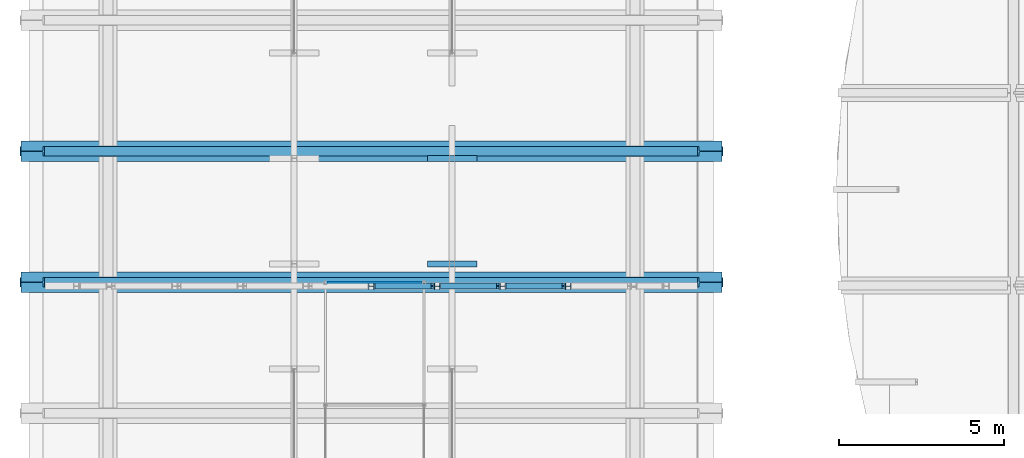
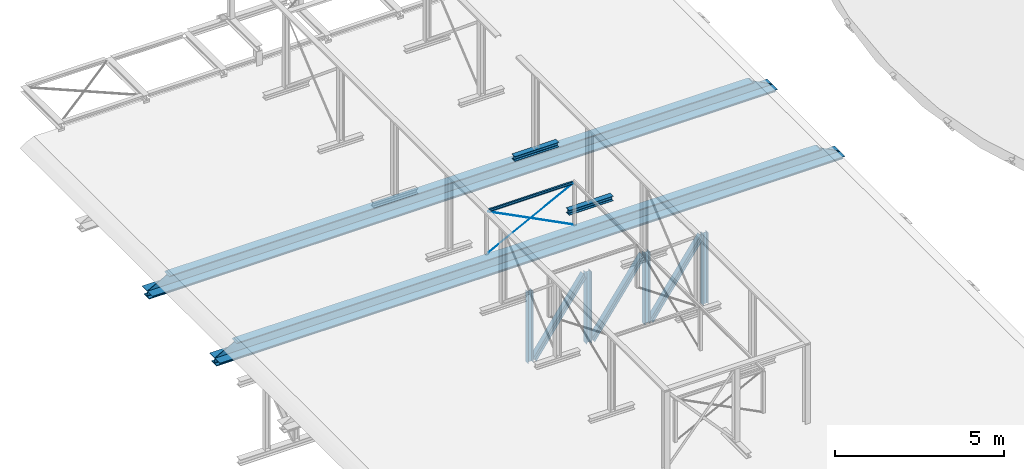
# One storey, part 18 of 50: 14 beams.
"""IFC2X3 building model written with IfcOpenShell, lengths in millimetres."""

from ifc_helpers import new_model, entity, si_unit, converted_unit, derived_unit, direction, frame, frame_2d, origin, place, context, subcontext, project, spatial, polyline, circle_curve, parameter, trimmed, segment, composite_curve, rectangle, circle, i_section, outline, extrude, clip, halfspace, bounded_halfspace, source, transform, mapped, material, material_list, type_object, type_shapes, element, save


model = new_model("IFC2X3")

# Units and contexts
model_context = context("Model", 3, precision=0.01, world=origin(), true_north=direction((6.12303176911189e-17, 1.0)))
body_context = subcontext(model_context, "Body", "Model", "MODEL_VIEW")
ifc_project = project(units=[si_unit("LENGTHUNIT", "METRE", prefix="MILLI"), si_unit("AREAUNIT", "SQUARE_METRE", prefix="MILLI"), si_unit("VOLUMEUNIT", "CUBIC_METRE"), converted_unit("PLANEANGLEUNIT", "DEGREE", entity("IfcRatioMeasure", 0.0174532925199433), si_unit("PLANEANGLEUNIT", "RADIAN"), dimensions=[0, 0, 0, 0, 0, 0, 0]), si_unit("MASSUNIT", "GRAM", prefix="KILO"), derived_unit("MASSDENSITYUNIT", [(si_unit("MASSUNIT", "GRAM", prefix="KILO"), 1), (si_unit("LENGTHUNIT", "METRE"), -3)]), derived_unit("MOMENTOFINERTIAUNIT", [(si_unit("LENGTHUNIT", "METRE"), 4)]), si_unit("TIMEUNIT", "SECOND"), si_unit("FREQUENCYUNIT", "HERTZ"), si_unit("THERMODYNAMICTEMPERATUREUNIT", "DEGREE_CELSIUS"), derived_unit("THERMALTRANSMITTANCEUNIT", [(si_unit("MASSUNIT", "GRAM", prefix="KILO"), 1), (si_unit("THERMODYNAMICTEMPERATUREUNIT", "KELVIN"), -1), (si_unit("TIMEUNIT", "SECOND"), -3)]), derived_unit("VOLUMETRICFLOWRATEUNIT", [(si_unit("LENGTHUNIT", "METRE"), 3), (si_unit("TIMEUNIT", "SECOND"), -1)]), si_unit("ELECTRICCURRENTUNIT", "AMPERE"), si_unit("ELECTRICVOLTAGEUNIT", "VOLT"), si_unit("POWERUNIT", "WATT"), si_unit("FORCEUNIT", "NEWTON", prefix="KILO"), si_unit("ILLUMINANCEUNIT", "LUX"), si_unit("LUMINOUSFLUXUNIT", "LUMEN"), si_unit("LUMINOUSINTENSITYUNIT", "CANDELA"), derived_unit("USERDEFINED", [(si_unit("MASSUNIT", "GRAM", prefix="KILO"), -1), (si_unit("LENGTHUNIT", "METRE"), -2), (si_unit("TIMEUNIT", "SECOND"), 3), (si_unit("LUMINOUSFLUXUNIT", "LUMEN"), 1)]), derived_unit("LINEARVELOCITYUNIT", [(si_unit("LENGTHUNIT", "METRE"), 1), (si_unit("TIMEUNIT", "SECOND"), -1)]), si_unit("PRESSUREUNIT", "PASCAL"), derived_unit("USERDEFINED", [(si_unit("LENGTHUNIT", "METRE"), -2), (si_unit("MASSUNIT", "GRAM", prefix="KILO"), 1), (si_unit("TIMEUNIT", "SECOND"), -2)]), derived_unit("LINEARFORCEUNIT", [(si_unit("MASSUNIT", "GRAM", prefix="KILO"), 1), (si_unit("LENGTHUNIT", "METRE"), 1), (si_unit("TIMEUNIT", "SECOND"), -2), (si_unit("LENGTHUNIT", "METRE"), -1)]), derived_unit("PLANARFORCEUNIT", [(si_unit("MASSUNIT", "GRAM", prefix="KILO"), 1), (si_unit("LENGTHUNIT", "METRE"), 1), (si_unit("TIMEUNIT", "SECOND"), -2), (si_unit("LENGTHUNIT", "METRE"), -2)])], contexts=[model_context])

# Site, building, storey
site_placement = place(None, origin())
site = spatial("IfcSite", under=ifc_project, at=site_placement, Name="Theater aan de Parade", CompositionType="ELEMENT")
building_placement = place(site_placement, origin())
building = spatial("IfcBuilding", under=site, at=building_placement, Name="Theater aan de Parade", CompositionType="ELEMENT")
storey_placement = place(building_placement, frame((0.0, 0.0, 15820.0)))
storey = spatial("IfcBuildingStorey", under=building, at=storey_placement, Name="04 vierde verdieping", CompositionType="ELEMENT", Elevation=15820.0)

# Beams
ifc_material_1 = material(Name="00_PBT_MAT_staal_S355")
beam_type_1 = type_object("IfcBeamType", Name="28_PBT_SF_staal_H-profiel:S355_HE180A", PredefinedType="NOTDEFINED")
beam_1_placement = place(storey_placement, frame((26103.8569884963, 29518.2922984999, -4340.0), z_axis=(1.0, 0.0, 0.0), x_axis=(0.0, 0.0, 1.0)))
element("IfcBeam", 1, at=beam_1_placement, inside=storey, type_object=beam_type_1, material=ifc_material_1, Name="28_PBT_SF_staal_H-profiel:S355_HE180A", ObjectType="28_PBT_SF_staal_H-profiel:S355_HE180A", context=body_context, shape_type="SweptSolid", body=[
    extrude(i_section(OverallWidth=179.999999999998, OverallDepth=171.0, WebThickness=6.00000000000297, FlangeThickness=9.49999999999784, FilletRadius=15.0000000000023, at=frame_2d((-2.16715534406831e-12, -2.16715534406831e-12), x_axis=(0.0, 1.0))), frame((122.7, 0.0, 0.0), z_axis=(1.0, 0.0, 0.0), x_axis=(0.0, 0.0, -1.0)), (0.0, 0.0, 1.0), 2574.60000000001),
])
beam_2_placement = place(storey_placement, frame((28095.8569884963, 29518.2922984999, -4340.0), z_axis=(1.0, 0.0, 0.0), x_axis=(0.0, 0.0, 1.0)))
element("IfcBeam", 2, at=beam_2_placement, inside=storey, type_object=beam_type_1, material=ifc_material_1, Name="28_PBT_SF_staal_H-profiel:S355_HE180A", ObjectType="28_PBT_SF_staal_H-profiel:S355_HE180A", context=body_context, shape_type="SweptSolid", body=[
    extrude(i_section(OverallWidth=179.999999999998, OverallDepth=171.0, WebThickness=6.00000000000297, FlangeThickness=9.49999999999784, FilletRadius=15.0000000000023, at=frame_2d((6.49436060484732e-12, -2.16715534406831e-12), x_axis=(0.0, 1.0))), frame((122.7, 0.0, 0.0), z_axis=(1.0, 0.0, 0.0), x_axis=(0.0, 0.0, -1.0)), (0.0, 0.0, 1.0), 2574.60000000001),
])
beam_3_placement = place(storey_placement, frame((30087.8569884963, 29518.2922984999, -4340.0), z_axis=(1.0, 0.0, 0.0), x_axis=(0.0, 0.0, 1.0)))
element("IfcBeam", 3, at=beam_3_placement, inside=storey, type_object=beam_type_1, material=ifc_material_1, Name="28_PBT_SF_staal_H-profiel:S355_HE180A", ObjectType="28_PBT_SF_staal_H-profiel:S355_HE180A", context=body_context, shape_type="SweptSolid", body=[
    extrude(i_section(OverallWidth=179.999999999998, OverallDepth=171.0, WebThickness=6.00000000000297, FlangeThickness=9.49999999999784, FilletRadius=15.0000000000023, at=frame_2d((-6.49436060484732e-12, -2.16715534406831e-12), x_axis=(0.0, 1.0))), frame((122.7, 0.0, 0.0), z_axis=(1.0, 0.0, 0.0), x_axis=(0.0, 0.0, -1.0)), (0.0, 0.0, 1.0), 2574.60000000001),
])
beam_4_placement = place(storey_placement, frame((32079.8569884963, 29518.2922984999, -4340.0), z_axis=(1.0, 0.0, 0.0), x_axis=(0.0, 0.0, 1.0)))
element("IfcBeam", 4, at=beam_4_placement, inside=storey, type_object=beam_type_1, material=ifc_material_1, Name="28_PBT_SF_staal_H-profiel:S355_HE180A", ObjectType="28_PBT_SF_staal_H-profiel:S355_HE180A", context=body_context, shape_type="SweptSolid", body=[
    extrude(i_section(OverallWidth=179.999999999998, OverallDepth=171.0, WebThickness=6.00000000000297, FlangeThickness=9.49999999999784, FilletRadius=15.0000000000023, at=frame_2d((2.16715534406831e-12, 2.16715534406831e-12), x_axis=(0.0, 1.0))), frame((122.7, 0.0, 0.0), z_axis=(1.0, 0.0, 0.0), x_axis=(0.0, 0.0, -1.0)), (0.0, 0.0, 1.0), 2574.60000000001),
])
beam_5_placement = place(storey_placement, frame((26103.8569884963, 29518.2922984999, -4340.0), z_axis=(0.816775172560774, 0.0, -0.576956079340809), x_axis=(0.576956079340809, 0.0, 0.816775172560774)))
element("IfcBeam", 5, at=beam_5_placement, inside=storey, type_object=beam_type_1, material=ifc_material_1, Name="28_PBT_SF_staal_H-profiel:S355_HE180A", ObjectType="28_PBT_SF_staal_H-profiel:S355_HE180A", context=body_context, shape_type="Clipping", body=[
    clip(clip(extrude(outline(composite_curve([segment(polyline([(76.0, -90.0), (85.5000000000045, -90.0)]), True, "CONTINUOUS"), segment(polyline([(85.4999999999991, -90.0), (85.5000000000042, 90.0)]), True, "CONTINUOUS"), segment(polyline([(85.4999999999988, 90.0), (76.0, 90.0)]), True, "CONTINUOUS"), segment(polyline([(76.0, 90.0), (76.0, 18.0)]), True, "CONTINUOUS"), segment(trimmed(circle_curve(frame_2d((61.0, 18.0), x_axis=(1.0, 0.0)), 14.9999999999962), [parameter(269.999999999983)], [parameter(0.0)], True, "PARAMETER"), False, "CONTINUOUS"), segment(polyline([(61.0, 3.0), (-61.0, 3.0)]), True, "CONTINUOUS"), segment(trimmed(circle_curve(frame_2d((-61.0, 18.0), x_axis=(0.0, -1.0)), 14.9999999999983), [parameter(269.999999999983)], [parameter(0.0)], True, "PARAMETER"), False, "CONTINUOUS"), segment(polyline([(-76.0, 18.0), (-76.0, 90.0)]), True, "CONTINUOUS"), segment(polyline([(-76.0, 90.0), (-85.4999999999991, 90.0)]), True, "CONTINUOUS"), segment(polyline([(-85.4999999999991, 90.0), (-85.4999999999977, -90.0)]), True, "CONTINUOUS"), segment(polyline([(-85.4999999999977, -90.0), (-76.0, -90.0)]), True, "CONTINUOUS"), segment(polyline([(-76.0, -90.0), (-76.0, -18.0)]), True, "CONTINUOUS"), segment(trimmed(circle_curve(frame_2d((-61.0, -18.0), x_axis=(-1.0, 0.0)), 14.9999999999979), [parameter(269.999999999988)], [parameter(0.0)], True, "PARAMETER"), False, "CONTINUOUS"), segment(polyline([(-61.0, -3.0), (61.0, -3.0)]), True, "CONTINUOUS"), segment(trimmed(circle_curve(frame_2d((61.0, -18.0), x_axis=(0.0, 1.0)), 14.9999999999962), [parameter(269.999999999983)], [parameter(0.0)], True, "PARAMETER"), False, "CONTINUOUS"), segment(polyline([(76.0, -18.0), (76.0, -90.0)]), True, "CONTINUOUS")], self_intersect=False)), frame((207.771728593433, 0.0, 0.0), z_axis=(1.0, 0.0, 0.0), x_axis=(0.0, 0.0, -1.0)), (0.0, 0.0, 1.0), 3037.0590394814), halfspace(frame((144.751676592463, -110.0, 26.9163913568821), z_axis=(-0.576956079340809, 0.0, -0.816775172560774), x_axis=(0.816775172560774, 0.0, -0.576956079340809)), False)), halfspace(frame((1172.31045389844, 110.0, 1481.59297368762), z_axis=(0.576956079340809, 0.0, 0.816775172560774), x_axis=(0.816775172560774, 0.0, -0.576956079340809)), False)),
])
beam_6_placement = place(storey_placement, frame((28095.8569884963, 29518.2922984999, -4340.0), z_axis=(0.816775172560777, 0.0, -0.576956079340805), x_axis=(0.576956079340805, 0.0, 0.816775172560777)))
element("IfcBeam", 6, at=beam_6_placement, inside=storey, type_object=beam_type_1, material=ifc_material_1, Name="28_PBT_SF_staal_H-profiel:S355_HE180A", ObjectType="28_PBT_SF_staal_H-profiel:S355_HE180A", context=body_context, shape_type="Clipping", body=[
    clip(clip(extrude(outline(composite_curve([segment(polyline([(76.0, -90.0), (85.5000000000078, -90.0)]), True, "CONTINUOUS"), segment(polyline([(85.5000000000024, -90.0), (85.5000000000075, 90.0)]), True, "CONTINUOUS"), segment(polyline([(85.5000000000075, 90.0), (76.0, 90.0)]), True, "CONTINUOUS"), segment(polyline([(76.0, 90.0), (76.0, 18.0)]), True, "CONTINUOUS"), segment(trimmed(circle_curve(frame_2d((61.0, 18.0), x_axis=(1.0, 0.0)), 14.9999999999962), [parameter(269.999999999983)], [parameter(0.0)], True, "PARAMETER"), False, "CONTINUOUS"), segment(polyline([(61.0, 3.0), (-61.0, 3.0)]), True, "CONTINUOUS"), segment(trimmed(circle_curve(frame_2d((-61.0, 18.0), x_axis=(0.0, -1.0)), 14.9999999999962), [parameter(269.999999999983)], [parameter(0.0)], True, "PARAMETER"), False, "CONTINUOUS"), segment(polyline([(-76.0, 18.0), (-76.0, 90.0)]), True, "CONTINUOUS"), segment(polyline([(-76.0, 90.0), (-85.4999999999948, 90.0)]), True, "CONTINUOUS"), segment(polyline([(-85.4999999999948, 90.0), (-85.4999999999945, -90.0)]), True, "CONTINUOUS"), segment(polyline([(-85.4999999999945, -90.0), (-76.0, -90.0)]), True, "CONTINUOUS"), segment(polyline([(-76.0, -90.0), (-76.0, -18.0)]), True, "CONTINUOUS"), segment(trimmed(circle_curve(frame_2d((-61.0, -18.0), x_axis=(-1.0, 0.0)), 14.9999999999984), [parameter(269.999999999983)], [parameter(0.0)], True, "PARAMETER"), False, "CONTINUOUS"), segment(polyline([(-61.0, -3.0), (61.0, -3.0)]), True, "CONTINUOUS"), segment(trimmed(circle_curve(frame_2d((61.0, -18.0), x_axis=(0.0, 1.0)), 14.9999999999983), [parameter(269.999999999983)], [parameter(0.0)], True, "PARAMETER"), False, "CONTINUOUS"), segment(polyline([(76.0, -18.0), (76.0, -90.0)]), True, "CONTINUOUS")], self_intersect=False)), frame((207.771728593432, 0.0, 0.0), z_axis=(1.0, 0.0, 0.0), x_axis=(0.0, 0.0, -1.0)), (0.0, 0.0, 1.0), 3037.0590394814), halfspace(frame((144.751676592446, -110.0, 26.9163913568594), z_axis=(-0.576956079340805, 0.0, -0.816775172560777), x_axis=(0.816775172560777, 0.0, -0.576956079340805)), False)), halfspace(frame((1172.31045389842, 110.0, 1481.5929736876), z_axis=(0.576956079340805, 0.0, 0.816775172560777), x_axis=(0.816775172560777, 0.0, -0.576956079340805)), False)),
])
beam_7_placement = place(storey_placement, frame((30087.8569884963, 29518.2922984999, -4340.0), z_axis=(0.816775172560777, 0.0, -0.576956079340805), x_axis=(0.576956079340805, 0.0, 0.816775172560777)))
element("IfcBeam", 7, at=beam_7_placement, inside=storey, type_object=beam_type_1, material=ifc_material_1, Name="28_PBT_SF_staal_H-profiel:S355_HE180A", ObjectType="28_PBT_SF_staal_H-profiel:S355_HE180A", context=body_context, shape_type="Clipping", body=[
    clip(clip(extrude(outline(composite_curve([segment(polyline([(76.0, -90.0), (85.5000000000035, -90.0)]), True, "CONTINUOUS"), segment(polyline([(85.499999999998, -90.0), (85.5000000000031, 90.0)]), True, "CONTINUOUS"), segment(polyline([(85.5000000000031, 90.0), (76.0, 90.0)]), True, "CONTINUOUS"), segment(polyline([(76.0, 90.0), (76.0, 18.0)]), True, "CONTINUOUS"), segment(trimmed(circle_curve(frame_2d((61.0, 18.0), x_axis=(1.0, 0.0)), 14.9999999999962), [parameter(269.999999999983)], [parameter(0.0)], True, "PARAMETER"), False, "CONTINUOUS"), segment(polyline([(61.0, 3.0), (-61.0, 3.0)]), True, "CONTINUOUS"), segment(trimmed(circle_curve(frame_2d((-61.0, 18.0), x_axis=(0.0, -1.0)), 14.9999999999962), [parameter(269.999999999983)], [parameter(0.0)], True, "PARAMETER"), False, "CONTINUOUS"), segment(polyline([(-76.0, 18.0), (-76.0, 90.0)]), True, "CONTINUOUS"), segment(polyline([(-76.0, 90.0), (-85.4999999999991, 90.0)]), True, "CONTINUOUS"), segment(polyline([(-85.4999999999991, 90.0), (-85.4999999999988, -90.0)]), True, "CONTINUOUS"), segment(polyline([(-85.4999999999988, -90.0), (-76.0, -90.0)]), True, "CONTINUOUS"), segment(polyline([(-76.0, -90.0), (-76.0, -18.0)]), True, "CONTINUOUS"), segment(trimmed(circle_curve(frame_2d((-61.0, -18.0), x_axis=(-1.0, 0.0)), 14.9999999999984), [parameter(269.999999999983)], [parameter(0.0)], True, "PARAMETER"), False, "CONTINUOUS"), segment(polyline([(-61.0, -3.0), (61.0, -3.0)]), True, "CONTINUOUS"), segment(trimmed(circle_curve(frame_2d((61.0, -18.0), x_axis=(0.0, 1.0)), 14.9999999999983), [parameter(269.999999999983)], [parameter(0.0)], True, "PARAMETER"), False, "CONTINUOUS"), segment(polyline([(76.0, -18.0), (76.0, -90.0)]), True, "CONTINUOUS")], self_intersect=False)), frame((207.771728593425, 0.0, 0.0), z_axis=(1.0, 0.0, 0.0), x_axis=(0.0, 0.0, -1.0)), (0.0, 0.0, 1.0), 3037.0590394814), halfspace(frame((144.751676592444, -110.0, 26.9163913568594), z_axis=(-0.576956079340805, 0.0, -0.816775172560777), x_axis=(0.816775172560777, 0.0, -0.576956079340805)), False)), halfspace(frame((1172.31045389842, 110.0, 1481.5929736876), z_axis=(0.576956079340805, 0.0, 0.816775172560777), x_axis=(0.816775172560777, 0.0, -0.576956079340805)), False)),
])
beam_8_placement = place(storey_placement, frame((27803.8569986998, 30195.8337248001, 0.0)))
element("IfcBeam", 8, at=beam_8_placement, inside=storey, type_object=beam_type_1, material=ifc_material_1, Name="28_PBT_SF_staal_H-profiel:S355_HE180A", ObjectType="28_PBT_SF_staal_H-profiel:S355_HE180A", context=body_context, shape_type="SweptSolid", body=[
    extrude(i_section(OverallWidth=180.000000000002, OverallDepth=171.0, WebThickness=6.00000000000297, FlangeThickness=9.49999999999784, FilletRadius=15.0000000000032, at=frame_2d((-2.16715534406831e-12, 2.16715534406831e-12), x_axis=(0.0, 1.0))), frame((0.0, 0.0, 184.499999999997), z_axis=(1.0, 0.0, 0.0), x_axis=(0.0, 0.0, -1.0)), (0.0, 0.0, 1.0), 1500.00000000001),
])
beam_9_placement = place(storey_placement, frame((27803.8569986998, 33398.8337248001, 0.0)))
element("IfcBeam", 9, at=beam_9_placement, inside=storey, type_object=beam_type_1, material=ifc_material_1, Name="28_PBT_SF_staal_H-profiel:S355_HE180A", ObjectType="28_PBT_SF_staal_H-profiel:S355_HE180A", context=body_context, shape_type="SweptSolid", body=[
    extrude(i_section(OverallWidth=180.000000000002, OverallDepth=171.0, WebThickness=6.00000000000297, FlangeThickness=9.49999999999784, FilletRadius=15.0000000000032, at=frame_2d((-2.16715534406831e-12, -2.16715534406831e-12), x_axis=(0.0, 1.0))), frame((0.0, 0.0, 184.499999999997), z_axis=(1.0, 0.0, 0.0), x_axis=(0.0, 0.0, -1.0)), (0.0, 0.0, 1.0), 1500.00000000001),
])
ifc_material_2 = material(Name="00_PBT_MAT_Lucht")
ifc_material_list_1 = material_list([ifc_material_1, ifc_material_2])
beam_type_2 = type_object("IfcBeamType", Name="28_PBT_SF_staal_H-profiel_met_oplegstrippen (void):S355_HE600B + oplegstrippen d=15_vloer h=500", PredefinedType="BEAM", material=ifc_material_list_1)
shared_shape_1 = source(origin(), body_context, "Body", "Clipping", [
    clip(clip(clip(clip(extrude(i_section(OverallWidth=300.00000000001, OverallDepth=600.0, WebThickness=15.4999999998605, FlangeThickness=30.0000000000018, FilletRadius=26.9999999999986, at=frame_2d((1.08002495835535e-12, -2.1600499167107e-12), x_axis=(0.0, 1.0))), frame((15427.3042052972, 29634.2274014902, 15490.0), z_axis=(1.0, 0.0, 0.0), x_axis=(0.0, 0.0, -1.0)), (0.0, 0.0, 1.0), 21352.8563544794), bounded_halfspace(frame((36780.1605597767, 52246.3639688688, 15190.0), z_axis=(0.990313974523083, 0.0, 0.138846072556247), x_axis=(0.0, -1.0, 0.0)), False, frame((15427.3042052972, 29634.2274014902, 15490.0), z_axis=(1.0, 0.0, 0.0), x_axis=(0.0, 0.0, -1.0)), polyline([(101.500000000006, 7.74999999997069), (101.499999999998, -7.75000000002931), (243.0, -7.75000000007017), (270.0, -34.750000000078), (270.0, -150.0), (300.0, -150.0), (300.0, 150.0), (270.0, 150.0), (270.0, 34.7499999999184), (243.0, 7.74999999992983), (101.500000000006, 7.74999999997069)]))), bounded_halfspace(frame((36752.3300473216, 52246.3639688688, 15388.5000000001), z_axis=(0.474088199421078, 0.0, 0.880477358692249), x_axis=(0.0, -1.0, 0.0)), False, frame((15427.3042052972, 29634.2274014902, 15490.0), z_axis=(1.0, 0.0, 0.0), x_axis=(0.0, 0.0, -1.0)), polyline([(101.500000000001, -7.75000000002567), (101.50000000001, 7.74999999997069), (-64.1883202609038, 7.75000000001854), (-243.0, 7.75000000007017), (-270.0, 34.7500000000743), (-270.0, 150.0), (-300.0, 150.0), (-300.0, -150.0), (-270.0, -150.0), (-270.0, -34.749999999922), (-243.0, -7.74999999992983), (-64.1883202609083, -7.74999999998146), (101.500000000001, -7.75000000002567)]))), bounded_halfspace(frame((15427.3042052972, 7022.09083411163, 15190.0), z_axis=(-0.989382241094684, 0.0, 0.145336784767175), x_axis=(0.0, 1.0, 0.0)), False, frame((15427.3042052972, 29634.2274014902, 15490.0), z_axis=(1.0, 0.0, 0.0), x_axis=(0.0, 0.0, -1.0)), polyline([(100.0, -7.7500000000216), (100.0, 7.7499999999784), (243.0, 7.74999999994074), (270.0, 34.7499999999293), (270.0, 150.0), (300.0, 150.0), (300.0, -150.0), (270.0, -150.0), (270.0, -34.7500000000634), (243.0, -7.75000000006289), (100.0, -7.7500000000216)]))), bounded_halfspace(frame((15456.6835045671, 7022.09083411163, 15390.0), z_axis=(-0.484809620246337, 0.0, 0.874619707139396), x_axis=(0.0, 1.0, 0.0)), False, frame((15427.3042052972, 29634.2274014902, 15490.0), z_axis=(1.0, 0.0, 0.0), x_axis=(0.0, 0.0, -1.0)), polyline([(100.0, 7.74999999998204), (100.0, -7.7500000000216), (-68.145901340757, -7.74999999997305), (-243.0, -7.74999999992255), (-270.0, -34.7499999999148), (-270.0, -150.0), (-300.0, -150.0), (-300.0, 150.0), (-270.0, 150.0), (-270.0, 34.7500000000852), (-243.0, 7.75000000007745), (-68.1459013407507, 7.75000000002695), (100.0, 7.74999999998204)]))),
    clip(clip(clip(extrude(rectangle(XDim=15.0000000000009, YDim=300.000000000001, at=frame_2d((8.66862137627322e-12, 1.08268949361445e-12), x_axis=(0.0, 1.0))), frame((15454.4800571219, 29791.9774014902, 15382.5), z_axis=(1.0, 0.0, 0.0), x_axis=(0.0, 1.0, 0.0)), (0.0, 0.0, 1.0), 21299.7427454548), halfspace(frame((15427.3042052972, 7022.09083411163, 15190.0), z_axis=(-0.989382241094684, 0.0, 0.145336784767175), x_axis=(0.0, 1.0, 0.0)), False)), bounded_halfspace(frame((36780.1605597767, 52246.3639688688, 15190.0), z_axis=(0.990313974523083, 0.0, 0.138846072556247), x_axis=(0.0, -1.0, 0.0)), False, frame((15454.4800571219, 29791.9774014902, 15382.5), z_axis=(1.0, 0.0, 0.0), x_axis=(0.0, 1.0, 0.0)), polyline([(150.0, 6.0), (-150.0, 6.0), (-150.0, -7.49999999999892), (150.0, -7.49999999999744), (150.0, 6.0)]))), bounded_halfspace(frame((36752.3300473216, 52246.3639688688, 15388.5000000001), z_axis=(0.474088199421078, 0.0, 0.880477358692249), x_axis=(0.0, -1.0, 0.0)), False, frame((15454.4800571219, 29791.9774014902, 15382.5), z_axis=(1.0, 0.0, 0.0), x_axis=(0.0, 1.0, 0.0)), polyline([(-150.0, 6.0), (150.0, 6.0), (150.0, 7.50000000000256), (-150.0, 7.49999999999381), (-150.0, 6.0)]))),
    clip(clip(extrude(rectangle(XDim=11.9999999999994, YDim=300.000000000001, at=frame_2d((2.16582307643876e-12, 1.08286712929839e-11), x_axis=(1.0, 0.0))), frame((15454.7004018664, 29476.4774014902, 15382.5), z_axis=(1.0, 0.0, 0.0), x_axis=(0.0, 0.0, -1.0)), (0.0, 0.0, 1.0), 21299.3120945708), halfspace(frame((36780.1605597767, 52246.3639688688, 15190.0), z_axis=(0.990313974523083, 0.0, 0.138846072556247), x_axis=(0.0, -1.0, 0.0)), False)), halfspace(frame((15427.3042052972, 7022.09083411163, 15190.0), z_axis=(-0.989382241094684, 0.0, 0.145336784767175), x_axis=(0.0, 1.0, 0.0)), False)),
])
type_shapes(beam_type_2, [shared_shape_1])
beam_10_placement = place(storey_placement, frame((0.0, 0.0, -15820.0)))
element("IfcBeam", 10, at=beam_10_placement, inside=storey, type_object=beam_type_2, material=ifc_material_1, Name="28_PBT_SF_staal_H-profiel_met_oplegstrippen (void):S355_HE600B + oplegstrippen d=15_vloer h=500", ObjectType="28_PBT_SF_staal_H-profiel_met_oplegstrippen (void):S355_HE600B + oplegstrippen d=15_vloer h=500", context=body_context, shape_type="MappedRepresentation", body=[
    mapped(shared_shape_1, transform((0.0, 0.0, 0.0), scale=1.0)),
])
ifc_material_list_2 = material_list([ifc_material_1, ifc_material_2])
beam_type_3 = type_object("IfcBeamType", Name="28_PBT_SF_staal_H-profiel_met_oplegstrippen (void):S355_HE600B + oplegstrippen d=15_vloer h=500", PredefinedType="BEAM", material=ifc_material_list_2)
shared_shape_2 = source(origin(), body_context, "Body", "Clipping", [
    clip(clip(clip(clip(extrude(i_section(OverallWidth=300.00000000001, OverallDepth=600.0, WebThickness=15.4999999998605, FlangeThickness=29.9999999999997, FilletRadius=26.9999999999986, at=frame_2d((0.0, -2.1600499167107e-12), x_axis=(0.0, 1.0))), frame((15427.3042052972, 33614.2274014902, 15490.0), z_axis=(1.0, 0.0, 0.0), x_axis=(0.0, 0.0, -1.0)), (0.0, 0.0, 1.0), 21352.8563544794), bounded_halfspace(frame((36780.1605597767, 56226.3639688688, 15190.0), z_axis=(0.990313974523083, 0.0, 0.138846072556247), x_axis=(0.0, -1.0, 0.0)), False, frame((15427.3042052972, 33614.2274014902, 15490.0), z_axis=(1.0, 0.0, 0.0), x_axis=(0.0, 0.0, -1.0)), polyline([(101.500000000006, 7.74999999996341), (101.499999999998, -7.75000000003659), (243.0, -7.75000000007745), (270.0, -34.750000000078), (270.0, -150.0), (300.0, -150.0), (300.0, 150.0), (270.0, 150.0), (270.0, 34.7499999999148), (243.0, 7.74999999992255), (101.500000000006, 7.74999999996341)]))), bounded_halfspace(frame((36752.3300473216, 56226.3639688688, 15388.5000000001), z_axis=(0.474088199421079, 0.0, 0.880477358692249), x_axis=(0.0, -1.0, 0.0)), False, frame((15427.3042052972, 33614.2274014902, 15490.0), z_axis=(1.0, 0.0, 0.0), x_axis=(0.0, 0.0, -1.0)), polyline([(101.500000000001, -7.75000000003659), (101.500000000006, 7.74999999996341), (-64.1883202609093, 7.75000000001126), (-243.0, 7.75000000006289), (-270.0, 34.7500000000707), (-270.0, 150.0), (-300.0, 150.0), (-300.0, -150.0), (-270.0, -150.0), (-270.0, -34.749999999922), (-243.0, -7.74999999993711), (-64.1883202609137, -7.74999999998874), (101.500000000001, -7.75000000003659)]))), bounded_halfspace(frame((15427.3042052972, 11002.0908341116, 15190.0), z_axis=(-0.989382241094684, 0.0, 0.145336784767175), x_axis=(0.0, 1.0, 0.0)), False, frame((15427.3042052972, 33614.2274014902, 15490.0), z_axis=(1.0, 0.0, 0.0), x_axis=(0.0, 0.0, -1.0)), polyline([(100.0, -7.75000000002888), (100.0, 7.7499999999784), (243.0, 7.74999999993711), (270.0, 34.749999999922), (270.0, 150.0), (300.0, 150.0), (300.0, -150.0), (270.0, -150.0), (270.0, -34.7500000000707), (243.0, -7.75000000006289), (100.0, -7.75000000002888)]))), bounded_halfspace(frame((15456.6835045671, 11002.0908341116, 15390.0), z_axis=(-0.484809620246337, 0.0, 0.874619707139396), x_axis=(0.0, 1.0, 0.0)), False, frame((15427.3042052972, 33614.2274014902, 15490.0), z_axis=(1.0, 0.0, 0.0), x_axis=(0.0, 0.0, -1.0)), polyline([(100.0, 7.7499999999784), (100.0, -7.7500000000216), (-68.1459013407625, -7.74999999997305), (-243.0, -7.74999999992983), (-270.0, -34.7499999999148), (-270.0, -150.0), (-300.0, -150.0), (-300.0, 150.0), (-270.0, 150.0), (-270.0, 34.750000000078), (-243.0, 7.75000000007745), (-68.145901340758, 7.75000000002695), (100.0, 7.7499999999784)]))),
    clip(clip(clip(extrude(rectangle(XDim=15.0000000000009, YDim=300.000000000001, at=frame_2d((8.66862137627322e-12, 1.08268949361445e-12), x_axis=(0.0, 1.0))), frame((15454.4800571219, 33771.9774014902, 15382.5), z_axis=(1.0, 0.0, 0.0), x_axis=(0.0, 1.0, 0.0)), (0.0, 0.0, 1.0), 21299.7427454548), halfspace(frame((15427.3042052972, 11002.0908341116, 15190.0), z_axis=(-0.989382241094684, 0.0, 0.145336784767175), x_axis=(0.0, 1.0, 0.0)), False)), bounded_halfspace(frame((36780.1605597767, 56226.3639688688, 15190.0), z_axis=(0.990313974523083, 0.0, 0.138846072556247), x_axis=(0.0, -1.0, 0.0)), False, frame((15454.4800571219, 33771.9774014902, 15382.5), z_axis=(1.0, 0.0, 0.0), x_axis=(0.0, 1.0, 0.0)), polyline([(150.0, 6.0), (-150.0, 6.0), (-150.0, -7.49999999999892), (150.0, -7.49999999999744), (150.0, 6.0)]))), bounded_halfspace(frame((36752.3300473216, 56226.3639688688, 15388.5000000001), z_axis=(0.474088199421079, 0.0, 0.880477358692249), x_axis=(0.0, -1.0, 0.0)), False, frame((15454.4800571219, 33771.9774014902, 15382.5), z_axis=(1.0, 0.0, 0.0), x_axis=(0.0, 1.0, 0.0)), polyline([(-150.0, 6.0), (150.0, 6.0), (150.0, 7.50000000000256), (-150.0, 7.5000000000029), (-150.0, 6.0)]))),
    clip(clip(extrude(rectangle(XDim=11.9999999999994, YDim=300.000000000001, at=frame_2d((2.16582307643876e-12, 6.49436060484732e-12), x_axis=(1.0, 0.0))), frame((15454.7004018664, 33456.4774014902, 15382.5), z_axis=(1.0, 0.0, 0.0), x_axis=(0.0, 0.0, -1.0)), (0.0, 0.0, 1.0), 21299.3120945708), halfspace(frame((36780.1605597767, 56226.3639688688, 15190.0), z_axis=(0.990313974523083, 0.0, 0.138846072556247), x_axis=(0.0, -1.0, 0.0)), False)), halfspace(frame((15427.3042052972, 11002.0908341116, 15190.0), z_axis=(-0.989382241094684, 0.0, 0.145336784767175), x_axis=(0.0, 1.0, 0.0)), False)),
])
type_shapes(beam_type_3, [shared_shape_2])
beam_11_placement = place(storey_placement, frame((0.0, 0.0, -15820.0)))
element("IfcBeam", 11, at=beam_11_placement, inside=storey, type_object=beam_type_3, material=ifc_material_1, Name="28_PBT_SF_staal_H-profiel_met_oplegstrippen (void):S355_HE600B + oplegstrippen d=15_vloer h=500", ObjectType="28_PBT_SF_staal_H-profiel_met_oplegstrippen (void):S355_HE600B + oplegstrippen d=15_vloer h=500", context=body_context, shape_type="MappedRepresentation", body=[
    mapped(shared_shape_2, transform((0.0, 0.0, 0.0), scale=1.0)),
])
beam_type_4 = type_object("IfcBeamType", Name="28_PBT_SF_staal_IPE-profiel:S355_IPE100", PredefinedType="NOTDEFINED")
beam_12_placement = place(storey_placement, frame((24703.8569986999, 29623.8337248, 1680.0)))
element("IfcBeam", 12, at=beam_12_placement, inside=storey, type_object=beam_type_4, material=ifc_material_1, Name="28_PBT_SF_staal_IPE-profiel:S355_IPE100", ObjectType="28_PBT_SF_staal_IPE-profiel:S355_IPE100", context=body_context, shape_type="SweptSolid", body=[
    extrude(outline(composite_curve([segment(polyline([(44.3000000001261, -27.4999999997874), (50.0, -27.4999999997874)]), True, "CONTINUOUS"), segment(polyline([(50.0, -27.4999999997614), (50.0, 27.5000000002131)]), True, "CONTINUOUS"), segment(polyline([(50.0, 27.500000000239), (44.2999999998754, 27.5000000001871)]), True, "CONTINUOUS"), segment(polyline([(44.2999999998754, 27.5000000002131), (44.2999999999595, 9.05000000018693)]), True, "CONTINUOUS"), segment(trimmed(circle_curve(frame_2d((37.2999999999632, 9.05000000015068), x_axis=(1.0, 0.0)), 6.99999999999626), [parameter(269.999999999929)], [parameter(0.0)], True, "PARAMETER"), False, "CONTINUOUS"), segment(polyline([(37.2999999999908, 2.0500000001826), (-37.3000000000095, 2.04999999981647)]), True, "CONTINUOUS"), segment(trimmed(circle_curve(frame_2d((-37.3000000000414, 9.04999999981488), x_axis=(0.0, -1.0)), 6.99999999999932), [parameter(270.0)], [parameter(0.0)], True, "PARAMETER"), False, "CONTINUOUS"), segment(polyline([(-44.300000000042, 9.04999999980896), (-44.3000000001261, 27.4999999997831)]), True, "CONTINUOUS"), segment(polyline([(-44.300000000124, 27.4999999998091), (-50.0, 27.4999999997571)]), True, "CONTINUOUS"), segment(polyline([(-50.0, 27.4999999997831), (-50.0, -27.5000000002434)]), True, "CONTINUOUS"), segment(polyline([(-50.0, -27.5000000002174), (-44.2999999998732, -27.5000000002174)]), True, "CONTINUOUS"), segment(polyline([(-44.2999999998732, -27.5000000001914), (-44.2999999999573, -9.05000000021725)]), True, "CONTINUOUS"), segment(trimmed(circle_curve(frame_2d((-37.2999999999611, -9.050000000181), x_axis=(-1.0, 0.0)), 6.99999999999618), [parameter(269.999999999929)], [parameter(0.0)], True, "PARAMETER"), False, "CONTINUOUS"), segment(polyline([(-37.2999999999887, -2.05000000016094), (37.3000000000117, -2.04999999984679)]), True, "CONTINUOUS"), segment(trimmed(circle_curve(frame_2d((37.3000000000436, -9.0499999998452), x_axis=(0.0, 1.0)), 6.99999999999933), [parameter(270.0)], [parameter(0.0)], True, "PARAMETER"), False, "CONTINUOUS"), segment(polyline([(44.300000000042, -9.0499999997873), (44.3000000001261, -27.4999999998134)]), True, "CONTINUOUS")], self_intersect=False)), frame((62.6999999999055, 0.0, -50.0), z_axis=(1.0, 0.0, 0.0), x_axis=(0.0, 0.0, -1.0)), (0.0, 0.0, 1.0), 2874.59999999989),
])
beam_type_5 = type_object("IfcBeamType", Name="28_PBT_SF_staal_massief_rond:S355_D16", PredefinedType="NOTDEFINED")
beam_13_placement = place(storey_placement, frame((24755.3236932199, 29623.8337248, 116.413217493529), z_axis=(-0.455562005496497, 0.0, 0.890204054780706), x_axis=(0.890204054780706, 0.0, 0.455562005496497)))
element("IfcBeam", 13, at=beam_13_placement, inside=storey, type_object=beam_type_5, material=ifc_material_1, Name="28_PBT_SF_staal_massief_rond:S355_D16", ObjectType="28_PBT_SF_staal_massief_rond:S355_D16", context=body_context, shape_type="SweptSolid", body=[
    extrude(circle(Radius=7.99999999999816, at=frame_2d((-5.86300609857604e-25, 1.92794541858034e-12), x_axis=(1.0, 0.0))), frame((15.1464071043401, 0.0, 0.0), z_axis=(1.0, 0.0, 0.0), x_axis=(0.0, 1.0, 0.0)), (0.0, 0.0, 1.0), 3224.09206013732),
])
beam_14_placement = place(storey_placement, frame((27698.2348565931, 29623.8337248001, 92.9755146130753), z_axis=(0.455524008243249, 0.0, 0.890223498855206), x_axis=(-0.890223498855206, 0.0, 0.455524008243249)))
element("IfcBeam", 14, at=beam_14_placement, inside=storey, type_object=beam_type_5, material=ifc_material_1, Name="28_PBT_SF_staal_massief_rond:S355_D16", ObjectType="28_PBT_SF_staal_massief_rond:S355_D16", context=body_context, shape_type="SweptSolid", body=[
    extrude(circle(Radius=7.99999999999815, at=frame_2d((-5.86300609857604e-25, 1.92798752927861e-12), x_axis=(1.0, 0.0))), frame((66.6438130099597, 0.0, 0.0), z_axis=(1.0, 0.0, 0.0), x_axis=(0.0, 1.0, 0.0)), (0.0, 0.0, 1.0), 3224.02176834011),
])

save(model, "model.ifc")
